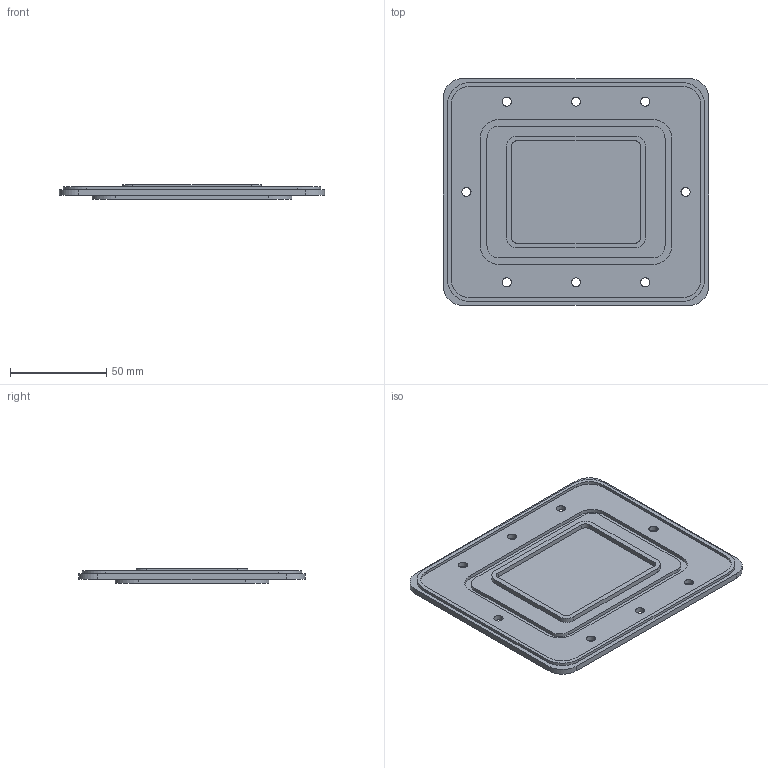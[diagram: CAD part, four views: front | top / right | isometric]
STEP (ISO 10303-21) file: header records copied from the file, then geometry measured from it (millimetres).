
FILE_DESCRIPTION(('CATIA V5 STEP Exchange','CAx-IF Rec.Pracs.--- Model Styling and Organization---1.5--- 2016-08-15','CAx-IF Rec.Pracs.---Supplemental Geometry---1.0---2011-11-01','CAx-IF Rec.Pracs.--- Composite Materials ---3.4---2017-06-13','CAx-IF Rec.Pracs.---Tessellated 3D Geometry---1.0---2015-12-17'),'2;1');
FILE_NAME('C:\Users\icemi\Desktop\RZS_Repository\RES\catia_macros\generated\RES_Enclosure_20260730_133316\RES_BatteryCover.stp','2026-07-30T05:35:12+00:00',('none'),('none'),'CATIA Version 5-6 Release 2022 SP6','CATIA V5 STEP AP242 v3','none');
FILE_SCHEMA(('AP242_MANAGED_MODEL_BASED_3D_ENGINEERING_MIM_LF {1 0 10303 442 1 1 4}'));
Length unit declared in the file: millimetre
Products named in the file (1): Part66
Bounding box: 138 x 118 x 7.5 mm (x, y, z)
Volume: 53918.7 mm3; surface area: 39161.1 mm2
Topology: 1 solids, 1 shells, 124 faces, 320 edges, 212 vertices
Faces by surface type: cylinder 68, plane 56
Entity records: 3600 total; most frequent: ORIENTED_EDGE 640, CARTESIAN_POINT 628, DIRECTION 510, EDGE_CURVE 320, AXIS2_PLACEMENT_3D 236, VERTEX_POINT 212, VECTOR 180, LINE 180
